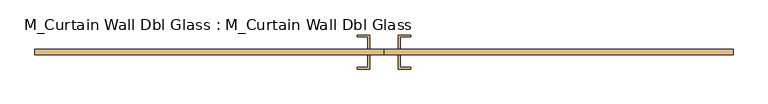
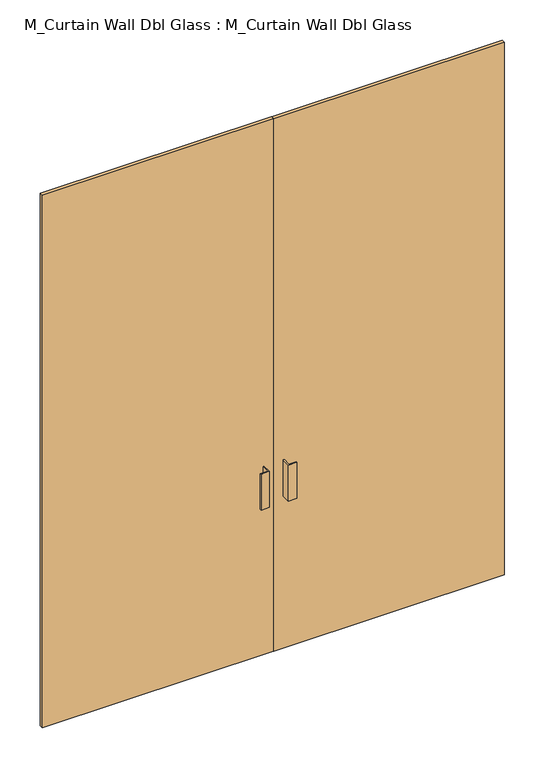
"""IFC4 building model written with IfcOpenShell, lengths in millimetres: door geometry, M_Curtain Wall Dbl Glass : M_Curtain Wall Dbl Glass."""

from ifc_helpers import new_model, si_unit, frame, origin, origin_with_axes, place, context, project, spatial, polyline, outline, extrude, source, transform, mapped, element, save


def m_curtain_wall_dbl_glass_m_curtain_wall_dbl_glass_65589565(model_context):
    return source(origin(), model_context, "Body", "SweptSolid", [
        extrude(outline(polyline([(-1.5875, 30.95), (-1238.2499999, 30.95), (-1238.2499999, 50.0), (-1.5875, 50.0), (-1.5875, 30.95)])), origin_with_axes(), (0.0, 0.0, 1.0), 3016.25),
        extrude(outline(polyline([(1238.2499999, 30.95), (1.5875, 30.95), (1.5875, 50.0), (1238.2499999, 50.0), (1238.2499999, 30.95)])), origin_with_axes(), (0.0, 0.0, 1.0), 3016.25),
        extrude(outline(polyline([(-50.8, 100.8), (-50.8, 50.0), (-57.15, 50.0), (-57.15, 94.45), (-95.25, 94.45), (-95.25, 100.8), (-50.8, 100.8)])), frame((0.0, 0.0, 863.6), z_axis=(0.0, 0.0, 1.0), x_axis=(1.0, 0.0, 0.0)), (0.0, 0.0, 1.0), 203.2),
        extrude(outline(polyline([(50.8, 100.8), (95.25, 100.8), (95.25, 94.45), (57.15, 94.45), (57.15, 50.0), (50.8, 50.0), (50.8, 100.8)])), frame((0.0, 0.0, 863.6), z_axis=(0.0, 0.0, 1.0), x_axis=(1.0, 0.0, 0.0)), (0.0, 0.0, 1.0), 203.2),
        extrude(outline(polyline([(-50.8, -19.85), (-95.25, -19.85), (-95.25, -13.5), (-57.15, -13.5), (-57.15, 30.95), (-50.8, 30.95), (-50.8, -19.85)])), frame((0.0, 0.0, 863.6), z_axis=(0.0, 0.0, 1.0), x_axis=(1.0, 0.0, 0.0)), (0.0, 0.0, 1.0), 203.2),
        extrude(outline(polyline([(50.8, -19.85), (50.8, 30.95), (57.15, 30.95), (57.15, -13.5), (95.25, -13.5), (95.25, -19.85), (50.8, -19.85)])), frame((0.0, 0.0, 863.6), z_axis=(0.0, 0.0, 1.0), x_axis=(1.0, 0.0, 0.0)), (0.0, 0.0, 1.0), 203.2),
    ])


if __name__ == "__main__":
    model = new_model("IFC4")
    model_context = context("Model", 3, world=origin())
    ifc_project = project(units=[si_unit("LENGTHUNIT", "METRE", prefix="MILLI")], contexts=[model_context])
    site = spatial("IfcSite", under=ifc_project)
    building = spatial("IfcBuilding", under=site)
    placement = place(None, origin())
    m_curtain_wall_dbl_glass_m_curtain_wall_dbl_glass_shape = m_curtain_wall_dbl_glass_m_curtain_wall_dbl_glass_65589565(model_context)
    element("IfcDoor", 1, ObjectType="M_Curtain Wall Dbl Glass : M_Curtain Wall Dbl Glass", at=placement, inside=building, context=model_context, shape_type="MappedRepresentation", body=[
        mapped(m_curtain_wall_dbl_glass_m_curtain_wall_dbl_glass_shape, transform((0.0, 0.0, 0.0), x_axis=(1.0, 0.0, 0.0), y_axis=(0.0, 1.0, 0.0), z_axis=(0.0, 0.0, 1.0))),
    ])
    save(model, "model.ifc")
